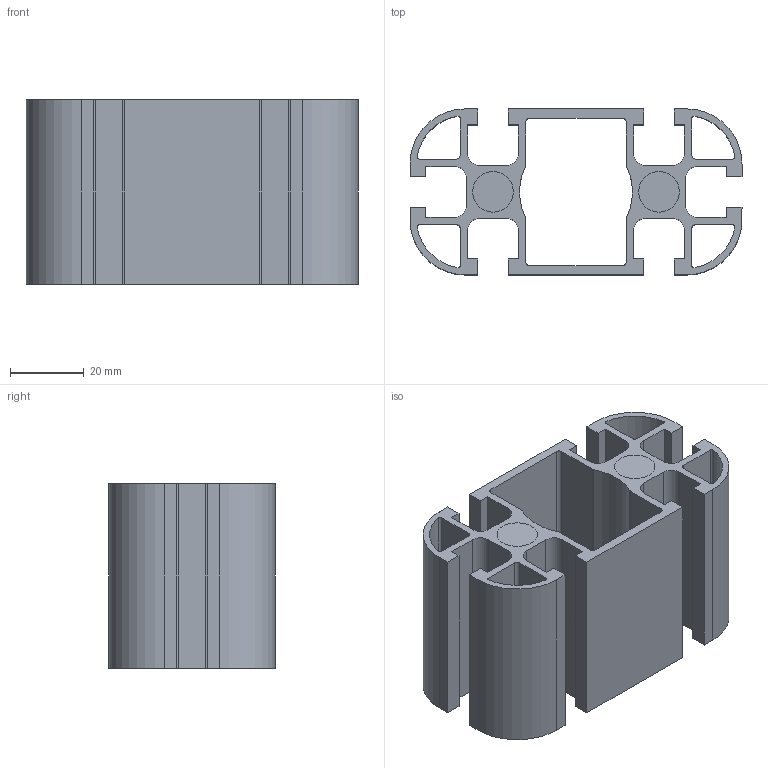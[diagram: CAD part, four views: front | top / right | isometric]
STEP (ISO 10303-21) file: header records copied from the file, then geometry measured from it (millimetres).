
FILE_DESCRIPTION (( 'STEP AP214' ), '1' );
FILE_NAME ('115.101.002.STEP', '2019-04-04T07:18:15', ( '' ), ( '' ), 'SwSTEP 2.0', 'SolidWorks 2018', '' );
FILE_SCHEMA (( 'AUTOMOTIVE_DESIGN' ));
Length unit declared in the file: millimetre
Products named in the file (1): 115.101.002
Bounding box: 90 x 45 x 50 mm (x, y, z)
Volume: 61603.3 mm3; surface area: 48005.6 mm2
Topology: 3 solids, 3 shells, 131 faces, 375 edges, 250 vertices
Faces by surface type: plane 72, cylinder 59
Entity records: 4387 total; most frequent: DIRECTION 757, CARTESIAN_POINT 757, ORIENTED_EDGE 750, EDGE_CURVE 375, VECTOR 257, LINE 257, VERTEX_POINT 250, AXIS2_PLACEMENT_3D 250
